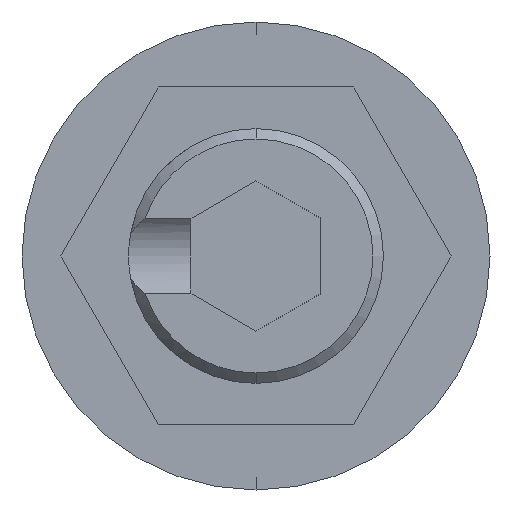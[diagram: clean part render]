
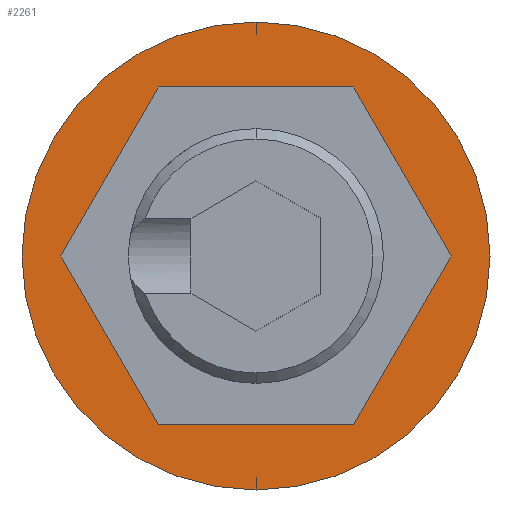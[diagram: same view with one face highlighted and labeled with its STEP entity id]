
A CAD part, front view. The second image highlights one B-rep face of the part: STEP entity #2261.
In plain terms, the highlighted planar face has unit normal (0, -1, 0).
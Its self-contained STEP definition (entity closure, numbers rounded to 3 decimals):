
#83 = DIRECTION ( 'NONE',  ( -1., 0., 0. ) ) ;
#122 = FACE_BOUND ( 'NONE', #444, .T. ) ;
#128 = AXIS2_PLACEMENT_3D ( 'NONE', #1613, #1674, #832 ) ;
#213 = LINE ( 'NONE', #635, #339 ) ;
#226 = VERTEX_POINT ( 'NONE', #1267 ) ;
#243 = LINE ( 'NONE', #1340, #725 ) ;
#300 = DIRECTION ( 'NONE',  ( -0.5, 0., -0.866 ) ) ;
#339 = VECTOR ( 'NONE', #83, 1000. ) ;
#390 = VERTEX_POINT ( 'NONE', #911 ) ;
#444 = EDGE_LOOP ( 'NONE', ( #1257, #1275, #1282, #1289, #1294, #1397 ) ) ;
#635 = CARTESIAN_POINT ( 'NONE',  ( 1.876, 0., 3.25 ) ) ;
#678 = VECTOR ( 'NONE', #2104, 1000. ) ;
#725 = VECTOR ( 'NONE', #1366, 1000. ) ;
#781 = CARTESIAN_POINT ( 'NONE',  ( -3.753, 0., 0. ) ) ;
#832 = DIRECTION ( 'NONE',  ( 0., 0., -1. ) ) ;
#911 = CARTESIAN_POINT ( 'NONE',  ( -1.876, 0., 3.25 ) ) ;
#919 = CARTESIAN_POINT ( 'NONE',  ( -1.876, 0., -3.25 ) ) ;
#949 = EDGE_CURVE ( 'NONE', #1628, #1445, #1954, .T. ) ;
#996 = EDGE_CURVE ( 'NONE', #1915, #1356, #2071, .T. ) ;
#1106 = EDGE_CURVE ( 'NONE', #390, #1915, #1391, .T. ) ;
#1240 = VECTOR ( 'NONE', #300, 1000. ) ;
#1257 = ORIENTED_EDGE ( 'NONE', *, *, #1361, .F. ) ;
#1267 = CARTESIAN_POINT ( 'NONE',  ( 3.753, 0., 0. ) ) ;
#1275 = ORIENTED_EDGE ( 'NONE', *, *, #996, .F. ) ;
#1282 = ORIENTED_EDGE ( 'NONE', *, *, #1106, .F. ) ;
#1284 = CARTESIAN_POINT ( 'NONE',  ( 0., 0., -4.5 ) ) ;
#1289 = ORIENTED_EDGE ( 'NONE', *, *, #1296, .F. ) ;
#1294 = ORIENTED_EDGE ( 'NONE', *, *, #1403, .F. ) ;
#1296 = EDGE_CURVE ( 'NONE', #1724, #390, #213, .T. ) ;
#1340 = CARTESIAN_POINT ( 'NONE',  ( 1.876, 0., -3.25 ) ) ;
#1356 = VERTEX_POINT ( 'NONE', #2100 ) ;
#1361 = EDGE_CURVE ( 'NONE', #1356, #1886, #1916, .T. ) ;
#1366 = DIRECTION ( 'NONE',  ( 0.5, 0., 0.866 ) ) ;
#1391 = LINE ( 'NONE', #2157, #1240 ) ;
#1397 = ORIENTED_EDGE ( 'NONE', *, *, #1660, .F. ) ;
#1403 = EDGE_CURVE ( 'NONE', #226, #1724, #1816, .T. ) ;
#1404 = ORIENTED_EDGE ( 'NONE', *, *, #949, .T. ) ;
#1417 = FACE_OUTER_BOUND ( 'NONE', #1901, .T. ) ;
#1425 = ORIENTED_EDGE ( 'NONE', *, *, #1939, .T. ) ;
#1445 = VERTEX_POINT ( 'NONE', #1839 ) ;
#1613 = CARTESIAN_POINT ( 'NONE',  ( 0., 0., 0. ) ) ;
#1628 = VERTEX_POINT ( 'NONE', #1284 ) ;
#1634 = CARTESIAN_POINT ( 'NONE',  ( 3.753, 0., 0. ) ) ;
#1644 = DIRECTION ( 'NONE',  ( -0.5, 0., 0.866 ) ) ;
#1645 = CARTESIAN_POINT ( 'NONE',  ( 1.876, 0., 3.25 ) ) ;
#1654 = AXIS2_PLACEMENT_3D ( 'NONE', #1905, #2163, #2271 ) ;
#1660 = EDGE_CURVE ( 'NONE', #1886, #226, #243, .T. ) ;
#1674 = DIRECTION ( 'NONE',  ( 0., -1., 0. ) ) ;
#1724 = VERTEX_POINT ( 'NONE', #1645 ) ;
#1792 = DIRECTION ( 'NONE',  ( 0.5, 0., -0.866 ) ) ;
#1816 = LINE ( 'NONE', #1634, #2199 ) ;
#1826 = CARTESIAN_POINT ( 'NONE',  ( -3.753, 0., 0. ) ) ;
#1839 = CARTESIAN_POINT ( 'NONE',  ( 0., 0., 4.5 ) ) ;
#1886 = VERTEX_POINT ( 'NONE', #2125 ) ;
#1901 = EDGE_LOOP ( 'NONE', ( #1404, #1425 ) ) ;
#1905 = CARTESIAN_POINT ( 'NONE',  ( 0., 0., 0. ) ) ;
#1915 = VERTEX_POINT ( 'NONE', #781 ) ;
#1916 = LINE ( 'NONE', #919, #678 ) ;
#1939 = EDGE_CURVE ( 'NONE', #1445, #1628, #2015, .T. ) ;
#1954 = CIRCLE ( 'NONE', #1654, 4.5 ) ;
#1990 = CARTESIAN_POINT ( 'NONE',  ( 0., 0., 0. ) ) ;
#1997 = PLANE ( 'NONE',  #2186 ) ;
#2015 = CIRCLE ( 'NONE', #128, 4.5 ) ;
#2018 = DIRECTION ( 'NONE',  ( 0., -1., 0. ) ) ;
#2022 = DIRECTION ( 'NONE',  ( 0., 0., -1. ) ) ;
#2068 = VECTOR ( 'NONE', #1792, 1000. ) ;
#2071 = LINE ( 'NONE', #1826, #2068 ) ;
#2100 = CARTESIAN_POINT ( 'NONE',  ( -1.876, 0., -3.25 ) ) ;
#2104 = DIRECTION ( 'NONE',  ( 1., 0., 0. ) ) ;
#2125 = CARTESIAN_POINT ( 'NONE',  ( 1.876, 0., -3.25 ) ) ;
#2157 = CARTESIAN_POINT ( 'NONE',  ( -1.876, 0., 3.25 ) ) ;
#2163 = DIRECTION ( 'NONE',  ( 0., -1., 0. ) ) ;
#2186 = AXIS2_PLACEMENT_3D ( 'NONE', #1990, #2018, #2022 ) ;
#2199 = VECTOR ( 'NONE', #1644, 1000. ) ;
#2261 = ADVANCED_FACE ( 'NONE', ( #122, #1417 ), #1997, .T. ) ;
#2271 = DIRECTION ( 'NONE',  ( 0., 0., -1. ) ) ;
